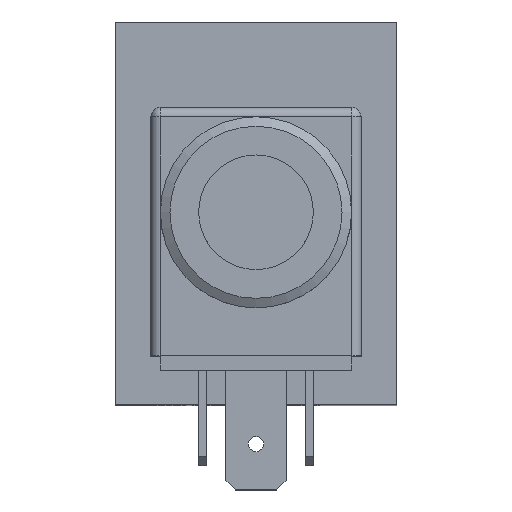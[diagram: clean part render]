
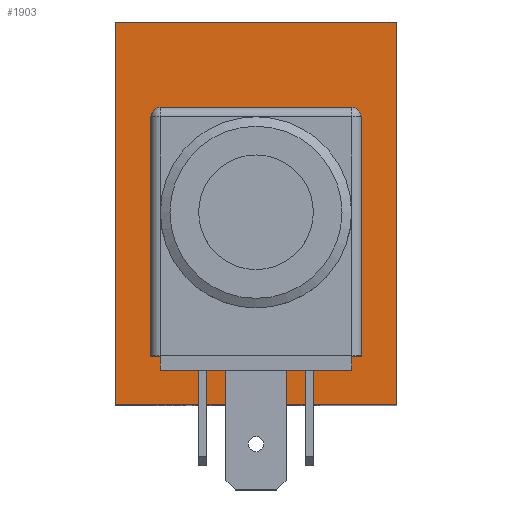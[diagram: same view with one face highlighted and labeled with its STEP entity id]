
A CAD part, top view. The second image highlights one B-rep face of the part: STEP entity #1903.
In plain terms, the highlighted planar face has unit normal (0, 0, 1).
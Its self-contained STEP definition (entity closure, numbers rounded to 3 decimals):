
#71=LINE('',#2947,#226);
#76=LINE('',#2960,#231);
#80=LINE('',#2972,#235);
#84=LINE('',#2984,#239);
#86=LINE('',#2994,#241);
#91=LINE('',#3003,#246);
#95=LINE('',#3011,#250);
#96=LINE('',#3013,#251);
#226=VECTOR('',#2416,15.);
#231=VECTOR('',#2429,15.);
#235=VECTOR('',#2441,15.);
#239=VECTOR('',#2453,15.);
#241=VECTOR('',#2465,40.);
#246=VECTOR('',#2472,29.5);
#250=VECTOR('',#2480,29.5);
#251=VECTOR('',#2483,40.);
#383=PLANE('',#2089);
#466=FACE_BOUND('',#713,.T.);
#467=FACE_BOUND('',#714,.T.);
#713=EDGE_LOOP('',(#1491,#1492,#1493,#1494,#1495,#1496,#1497,#1498));
#714=EDGE_LOOP('',(#1499,#1500,#1501,#1502));
#832=CIRCLE('',#2071,3.5);
#834=CIRCLE('',#2075,3.5);
#836=CIRCLE('',#2079,3.5);
#838=CIRCLE('',#2083,3.5);
#936=VERTEX_POINT('',#2944);
#937=VERTEX_POINT('',#2946);
#939=VERTEX_POINT('',#2952);
#941=VERTEX_POINT('',#2958);
#943=VERTEX_POINT('',#2964);
#945=VERTEX_POINT('',#2970);
#947=VERTEX_POINT('',#2976);
#949=VERTEX_POINT('',#2982);
#950=VERTEX_POINT('',#2990);
#952=VERTEX_POINT('',#2993);
#954=VERTEX_POINT('',#2999);
#957=VERTEX_POINT('',#3009);
#1121=EDGE_CURVE('',#937,#936,#71,.T.);
#1125=EDGE_CURVE('',#936,#939,#832,.T.);
#1128=EDGE_CURVE('',#939,#941,#76,.T.);
#1131=EDGE_CURVE('',#941,#943,#834,.T.);
#1134=EDGE_CURVE('',#943,#945,#80,.T.);
#1137=EDGE_CURVE('',#945,#947,#836,.T.);
#1140=EDGE_CURVE('',#947,#949,#84,.T.);
#1142=EDGE_CURVE('',#949,#937,#838,.T.);
#1144=EDGE_CURVE('',#952,#950,#86,.T.);
#1149=EDGE_CURVE('',#954,#952,#91,.T.);
#1153=EDGE_CURVE('',#950,#957,#95,.T.);
#1154=EDGE_CURVE('',#957,#954,#96,.T.);
#1491=ORIENTED_EDGE('',*,*,#1121,.T.);
#1492=ORIENTED_EDGE('',*,*,#1125,.T.);
#1493=ORIENTED_EDGE('',*,*,#1128,.T.);
#1494=ORIENTED_EDGE('',*,*,#1131,.T.);
#1495=ORIENTED_EDGE('',*,*,#1134,.T.);
#1496=ORIENTED_EDGE('',*,*,#1137,.T.);
#1497=ORIENTED_EDGE('',*,*,#1140,.T.);
#1498=ORIENTED_EDGE('',*,*,#1142,.T.);
#1499=ORIENTED_EDGE('',*,*,#1154,.T.);
#1500=ORIENTED_EDGE('',*,*,#1149,.T.);
#1501=ORIENTED_EDGE('',*,*,#1144,.T.);
#1502=ORIENTED_EDGE('',*,*,#1153,.T.);
#1903=ADVANCED_FACE('',(#466,#467),#383,.T.);
#2071=AXIS2_PLACEMENT_3D('',#2954,#2423,#2424);
#2075=AXIS2_PLACEMENT_3D('',#2966,#2435,#2436);
#2079=AXIS2_PLACEMENT_3D('',#2978,#2447,#2448);
#2083=AXIS2_PLACEMENT_3D('',#2987,#2458,#2459);
#2089=AXIS2_PLACEMENT_3D('',#3012,#2481,#2482);
#2416=DIRECTION('',(1.,0.,0.));
#2423=DIRECTION('center_axis',(0.,0.,-1.));
#2424=DIRECTION('ref_axis',(-1.,0.,0.));
#2429=DIRECTION('',(0.,-1.,0.));
#2435=DIRECTION('center_axis',(0.,0.,-1.));
#2436=DIRECTION('ref_axis',(0.,1.,0.));
#2441=DIRECTION('',(-1.,0.,0.));
#2447=DIRECTION('center_axis',(0.,0.,-1.));
#2448=DIRECTION('ref_axis',(1.,0.,0.));
#2453=DIRECTION('',(0.,1.,0.));
#2458=DIRECTION('center_axis',(0.,0.,-1.));
#2459=DIRECTION('ref_axis',(0.,-1.,0.));
#2465=DIRECTION('',(0.,-1.,0.));
#2472=DIRECTION('',(-1.,0.,0.));
#2480=DIRECTION('',(1.,0.,0.));
#2481=DIRECTION('center_axis',(0.,0.,1.));
#2482=DIRECTION('ref_axis',(1.,0.,0.));
#2483=DIRECTION('',(0.,1.,0.));
#2944=CARTESIAN_POINT('',(7.5,11.,50.));
#2946=CARTESIAN_POINT('',(-7.5,11.,50.));
#2947=CARTESIAN_POINT('',(-3.75,11.,50.));
#2952=CARTESIAN_POINT('',(11.,7.5,50.));
#2954=CARTESIAN_POINT('Origin',(7.5,7.5,50.));
#2958=CARTESIAN_POINT('',(11.,-7.5,50.));
#2960=CARTESIAN_POINT('',(11.,-6.25,50.));
#2964=CARTESIAN_POINT('',(7.5,-11.,50.));
#2966=CARTESIAN_POINT('Origin',(7.5,-7.5,50.));
#2970=CARTESIAN_POINT('',(-7.5,-11.,50.));
#2972=CARTESIAN_POINT('',(3.75,-11.,50.));
#2976=CARTESIAN_POINT('',(-11.,-7.5,50.));
#2978=CARTESIAN_POINT('Origin',(-7.5,-7.5,50.));
#2982=CARTESIAN_POINT('',(-11.,7.5,50.));
#2984=CARTESIAN_POINT('',(-11.,-13.75,50.));
#2987=CARTESIAN_POINT('Origin',(-7.5,7.5,50.));
#2990=CARTESIAN_POINT('',(-14.75,-20.,50.));
#2993=CARTESIAN_POINT('',(-14.75,20.,50.));
#2994=CARTESIAN_POINT('',(-14.75,-20.,50.));
#2999=CARTESIAN_POINT('',(14.75,20.,50.));
#3003=CARTESIAN_POINT('',(0.,20.,50.));
#3009=CARTESIAN_POINT('',(14.75,-20.,50.));
#3011=CARTESIAN_POINT('',(0.,-20.,50.));
#3012=CARTESIAN_POINT('Origin',(0.,-20.,50.));
#3013=CARTESIAN_POINT('',(14.75,-20.,50.));
